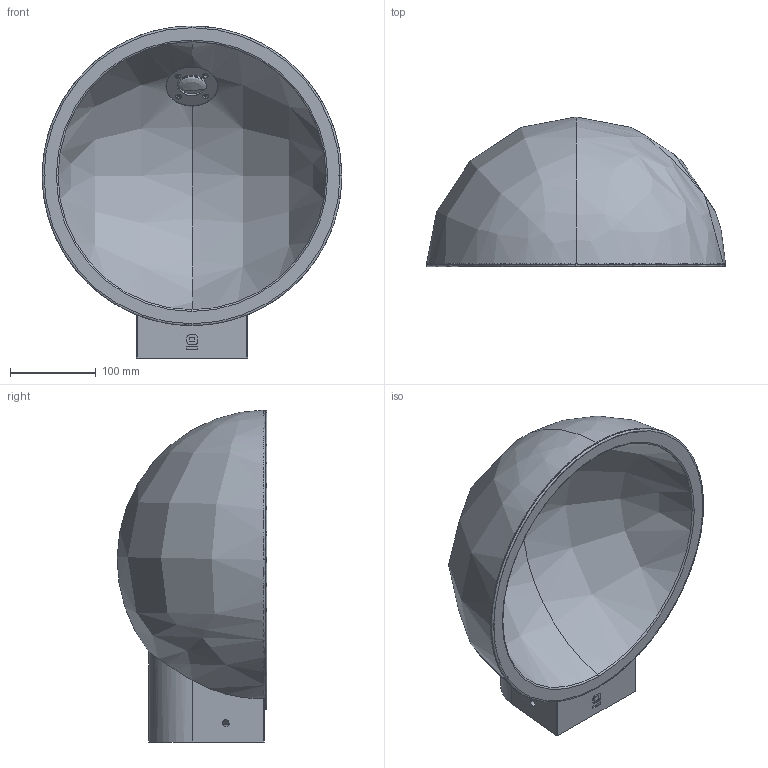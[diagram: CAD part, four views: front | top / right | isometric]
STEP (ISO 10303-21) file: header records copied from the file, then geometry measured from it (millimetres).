
FILE_DESCRIPTION(/* description */ (''),/* implementation_level */ '2;1');
FILE_NAME(/* name */ '75563_3d',/* time_stamp */ '2026-03-30T11:02:38+02:00',/* author */ (''),/* organization */ (''),/* preprocessor_version */ 'ST-DEVELOPER v19.2',/* originating_system */ 'Rhino 8.23',/* authorisation */ '');
FILE_SCHEMA (('CONFIG_CONTROL_DESIGN'));
Length unit declared in the file: millimetre
Products named in the file (5): Document; BREP_46; BREP_39; BREP_38; BREP_35
Bounding box: 349.98 x 174.96 x 387.99 mm (x, y, z)
Volume: 64853 mm3; surface area: 445431.6 mm2
Topology: 5 solids, 7 shells, 258 faces, 689 edges, 430 vertices
Faces by surface type: cylinder 103, plane 97, bspline 58
Entity records: 14145 total; most frequent: CARTESIAN_POINT 7907, ORIENTED_EDGE 1339, DIRECTION 818, EDGE_CURVE 683, AXIS2_PLACEMENT_3D 509, VERTEX_POINT 428, B_SPLINE_CURVE_WITH_KNOTS 368, EDGE_LOOP 297
